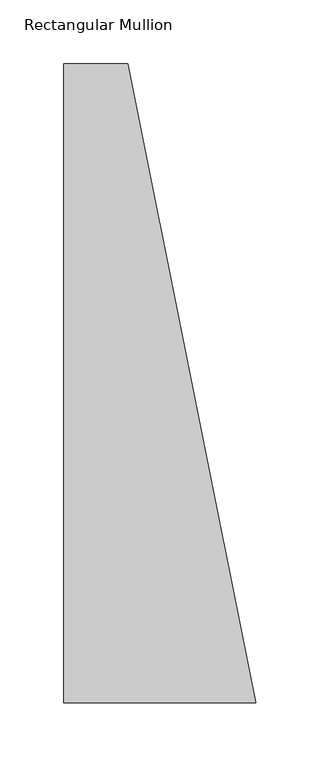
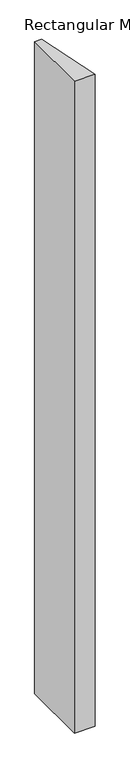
"""IFC4 building model written with IfcOpenShell, lengths in millimetres: member geometry, Rectangular Mullion : 500(350+150)x150x50mm."""

from ifc_helpers import new_model, si_unit, frame, origin, place, context, project, spatial, polyline, outline, extrude, source, transform, mapped, element, save


def rectangular_mullion_44268038(model_context):
    return source(origin(), model_context, "Body", "SweptSolid", [
        extrude(outline(polyline([(-150.0, 150.0), (-100.0, 150.0), (0.0, -350.0), (-150.0, -350.0), (-150.0, 150.0)])), frame((0.0, 0.0, -5000.0), z_axis=(0.0, 0.0, 1.0), x_axis=(1.0, 0.0, 0.0)), (0.0, 0.0, 1.0), 5000.0),
    ])


if __name__ == "__main__":
    model = new_model("IFC4")
    model_context = context("Model", 3, world=origin())
    ifc_project = project(units=[si_unit("LENGTHUNIT", "METRE", prefix="MILLI")], contexts=[model_context])
    site = spatial("IfcSite", under=ifc_project)
    building = spatial("IfcBuilding", under=site)
    placement = place(None, origin())
    rectangular_mullion_shape = rectangular_mullion_44268038(model_context)
    element("IfcMember", 1, ObjectType="Rectangular Mullion : 500(350+150)x150x50mm", at=placement, inside=building, context=model_context, shape_type="MappedRepresentation", body=[
        mapped(rectangular_mullion_shape, transform((0.0, 0.0, 0.0), x_axis=(1.0, 0.0, 0.0), y_axis=(0.0, 1.0, 0.0), z_axis=(0.0, 0.0, 1.0))),
    ])
    save(model, "model.ifc")
